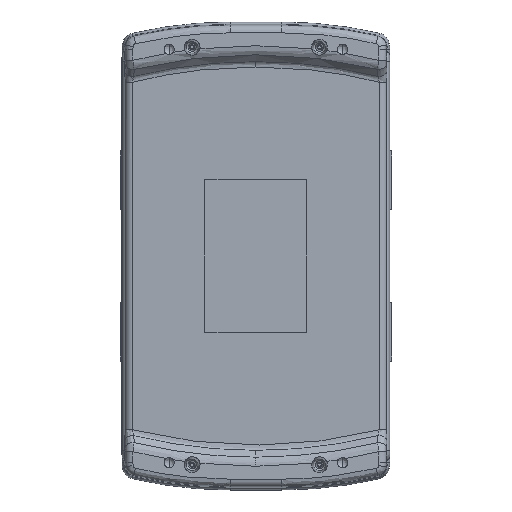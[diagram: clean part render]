
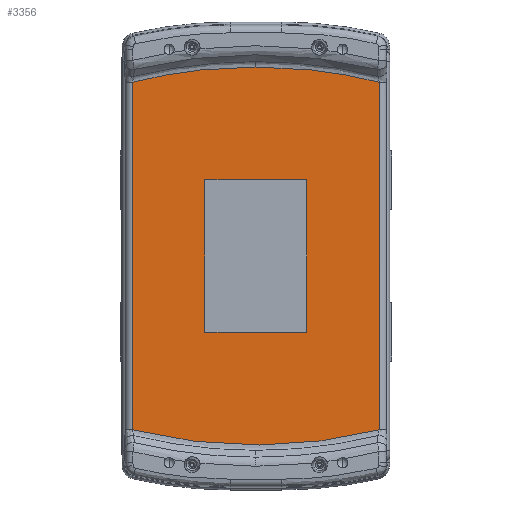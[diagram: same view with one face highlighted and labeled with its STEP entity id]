
A CAD part, front view. The second image highlights one B-rep face of the part: STEP entity #3356.
In plain terms, the highlighted planar face has unit normal (0, -1, 0).
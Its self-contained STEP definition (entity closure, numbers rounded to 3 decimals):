
#500 = VERTEX_POINT ( 'NONE', #51172 ) ;
#3356 = ADVANCED_FACE ( 'NONE', ( #18049, #58135 ), #29669, .F. ) ;
#3623 = ORIENTED_EDGE ( 'NONE', *, *, #20062, .F. ) ;
#5043 = ORIENTED_EDGE ( 'NONE', *, *, #45578, .F. ) ;
#5110 = LINE ( 'NONE', #25776, #61674 ) ;
#5349 = B_SPLINE_CURVE_WITH_KNOTS ( 'NONE', 3,
 ( #45337, #60125, #12355, #17262, #22105, #41316 ),
 .UNSPECIFIED., .F., .F.,
 ( 4, 2, 4 ),
 ( 0., 0.5, 1. ),
 .UNSPECIFIED. ) ;
#5674 = VERTEX_POINT ( 'NONE', #44689 ) ;
#8614 = ORIENTED_EDGE ( 'NONE', *, *, #49301, .F. ) ;
#11127 = LINE ( 'NONE', #60783, #59512 ) ;
#12016 = VERTEX_POINT ( 'NONE', #48632 ) ;
#12128 = CARTESIAN_POINT ( 'NONE',  ( -61.492, -13.97, -86.575 ) ) ;
#12337 = CARTESIAN_POINT ( 'NONE',  ( 61.492, -13.97, -86.575 ) ) ;
#12355 = CARTESIAN_POINT ( 'NONE',  ( -20.693, -13.97, 93.544 ) ) ;
#15064 = CARTESIAN_POINT ( 'NONE',  ( 41.359, -13.97, 91.632 ) ) ;
#15494 = CARTESIAN_POINT ( 'NONE',  ( -49.149, -13.97, 102.87 ) ) ;
#17262 = CARTESIAN_POINT ( 'NONE',  ( -41.268, -13.97, 90.999 ) ) ;
#18049 = FACE_OUTER_BOUND ( 'NONE', #24784, .T. ) ;
#18121 = VECTOR ( 'NONE', #36904, 1000. ) ;
#18417 = CARTESIAN_POINT ( 'NONE',  ( 25.4, -13.97, 38.1 ) ) ;
#18776 = EDGE_CURVE ( 'NONE', #56714, #56759, #5349, .T. ) ;
#19906 =( BOUNDED_CURVE ( )  B_SPLINE_CURVE ( 3, ( #12337, #21465, #55679, #12128 ),
 .UNSPECIFIED., .F., .F. ) 
 B_SPLINE_CURVE_WITH_KNOTS ( ( 4, 4 ),
 ( 0., 1. ),
 .UNSPECIFIED. ) 
 CURVE ( )  GEOMETRIC_REPRESENTATION_ITEM ( )  RATIONAL_B_SPLINE_CURVE ( ( 1., 0.98, 0.98, 1. ) ) 
 REPRESENTATION_ITEM ( '' )  );
#20062 = EDGE_CURVE ( 'NONE', #47211, #44456, #62301, .T. ) ;
#20283 = ORIENTED_EDGE ( 'NONE', *, *, #25708, .F. ) ;
#21465 = CARTESIAN_POINT ( 'NONE',  ( 20.917, -13.97, -96.767 ) ) ;
#22105 = CARTESIAN_POINT ( 'NONE',  ( -51.438, -13.97, 89.101 ) ) ;
#22164 = VECTOR ( 'NONE', #29111, 1000. ) ;
#22351 = DIRECTION ( 'NONE',  ( 1., 0., 0. ) ) ;
#22686 = EDGE_CURVE ( 'NONE', #44456, #5674, #46390, .T. ) ;
#24452 = EDGE_CURVE ( 'NONE', #5674, #500, #11127, .T. ) ;
#24567 = CARTESIAN_POINT ( 'NONE',  ( -25.4, -13.97, 38.1 ) ) ;
#24784 = EDGE_LOOP ( 'NONE', ( #36811, #20283, #32681, #51949, #8614 ) ) ;
#24951 = DIRECTION ( 'NONE',  ( 0., 0., -1. ) ) ;
#25708 = EDGE_CURVE ( 'NONE', #12016, #56759, #5110, .T. ) ;
#25776 = CARTESIAN_POINT ( 'NONE',  ( -61.492, -13.97, -102.87 ) ) ;
#26475 = CARTESIAN_POINT ( 'NONE',  ( -49.149, -13.97, 38.1 ) ) ;
#26546 =( BOUNDED_CURVE ( )  B_SPLINE_CURVE ( 3, ( #58565, #43811, #15064, #44211 ),
 .UNSPECIFIED., .F., .F. ) 
 B_SPLINE_CURVE_WITH_KNOTS ( ( 4, 4 ),
 ( 0., 1. ),
 .UNSPECIFIED. ) 
 CURVE ( )  GEOMETRIC_REPRESENTATION_ITEM ( )  RATIONAL_B_SPLINE_CURVE ( ( 1., 0.995, 0.995, 1. ) ) 
 REPRESENTATION_ITEM ( '' )  );
#28056 = EDGE_LOOP ( 'NONE', ( #5043, #29020, #46948, #3623 ) ) ;
#29020 = ORIENTED_EDGE ( 'NONE', *, *, #24452, .F. ) ;
#29111 = DIRECTION ( 'NONE',  ( 0., 0., -1. ) ) ;
#29256 = DIRECTION ( 'NONE',  ( 0., 0., 1. ) ) ;
#29669 = PLANE ( 'NONE',  #62045 ) ;
#30243 = CARTESIAN_POINT ( 'NONE',  ( 61.492, -13.97, -86.575 ) ) ;
#31288 = VECTOR ( 'NONE', #24951, 1000. ) ;
#32492 = LINE ( 'NONE', #41757, #18121 ) ;
#32681 = ORIENTED_EDGE ( 'NONE', *, *, #49138, .F. ) ;
#35708 = CARTESIAN_POINT ( 'NONE',  ( -61.492, -13.97, 86.575 ) ) ;
#36811 = ORIENTED_EDGE ( 'NONE', *, *, #18776, .T. ) ;
#36904 = DIRECTION ( 'NONE',  ( 0., 0., 1. ) ) ;
#40595 = DIRECTION ( 'NONE',  ( -1., 0., 0. ) ) ;
#41316 = CARTESIAN_POINT ( 'NONE',  ( -61.492, -13.97, 86.575 ) ) ;
#41757 = CARTESIAN_POINT ( 'NONE',  ( 25.4, -13.97, 102.87 ) ) ;
#43811 = CARTESIAN_POINT ( 'NONE',  ( 20.758, -13.97, 94.18 ) ) ;
#44211 = CARTESIAN_POINT ( 'NONE',  ( 61.492, -13.97, 86.575 ) ) ;
#44456 = VERTEX_POINT ( 'NONE', #24567 ) ;
#44689 = CARTESIAN_POINT ( 'NONE',  ( -25.4, -13.97, -38.1 ) ) ;
#45337 = CARTESIAN_POINT ( 'NONE',  ( 0., -13.97, 94.18 ) ) ;
#45391 = DIRECTION ( 'NONE',  ( 0., 0., 1. ) ) ;
#45578 = EDGE_CURVE ( 'NONE', #500, #47211, #32492, .T. ) ;
#46390 = LINE ( 'NONE', #58059, #22164 ) ;
#46948 = ORIENTED_EDGE ( 'NONE', *, *, #22686, .F. ) ;
#47211 = VERTEX_POINT ( 'NONE', #18417 ) ;
#48632 = CARTESIAN_POINT ( 'NONE',  ( -61.492, -13.97, -86.575 ) ) ;
#49138 = EDGE_CURVE ( 'NONE', #50886, #12016, #19906, .T. ) ;
#49301 = EDGE_CURVE ( 'NONE', #56714, #52773, #26546, .T. ) ;
#50886 = VERTEX_POINT ( 'NONE', #30243 ) ;
#51172 = CARTESIAN_POINT ( 'NONE',  ( 25.4, -13.97, -38.1 ) ) ;
#51949 = ORIENTED_EDGE ( 'NONE', *, *, #54193, .F. ) ;
#52773 = VERTEX_POINT ( 'NONE', #59819 ) ;
#53880 = CARTESIAN_POINT ( 'NONE',  ( 61.492, -13.97, -102.87 ) ) ;
#54193 = EDGE_CURVE ( 'NONE', #52773, #50886, #58484, .T. ) ;
#54535 = CARTESIAN_POINT ( 'NONE',  ( 0., -13.97, 94.18 ) ) ;
#55679 = CARTESIAN_POINT ( 'NONE',  ( -20.917, -13.97, -96.767 ) ) ;
#56714 = VERTEX_POINT ( 'NONE', #54535 ) ;
#56759 = VERTEX_POINT ( 'NONE', #35708 ) ;
#58059 = CARTESIAN_POINT ( 'NONE',  ( -25.4, -13.97, 102.87 ) ) ;
#58135 = FACE_BOUND ( 'NONE', #28056, .T. ) ;
#58189 = DIRECTION ( 'NONE',  ( 0., 1., 0. ) ) ;
#58484 = LINE ( 'NONE', #53880, #31288 ) ;
#58565 = CARTESIAN_POINT ( 'NONE',  ( 0., -13.97, 94.18 ) ) ;
#59289 = VECTOR ( 'NONE', #40595, 1000. ) ;
#59512 = VECTOR ( 'NONE', #22351, 1000. ) ;
#59819 = CARTESIAN_POINT ( 'NONE',  ( 61.492, -13.97, 86.575 ) ) ;
#60125 = CARTESIAN_POINT ( 'NONE',  ( -10.366, -13.97, 94.18 ) ) ;
#60783 = CARTESIAN_POINT ( 'NONE',  ( -49.149, -13.97, -38.1 ) ) ;
#61674 = VECTOR ( 'NONE', #45391, 1000. ) ;
#62045 = AXIS2_PLACEMENT_3D ( 'NONE', #15494, #58189, #29256 ) ;
#62301 = LINE ( 'NONE', #26475, #59289 ) ;
